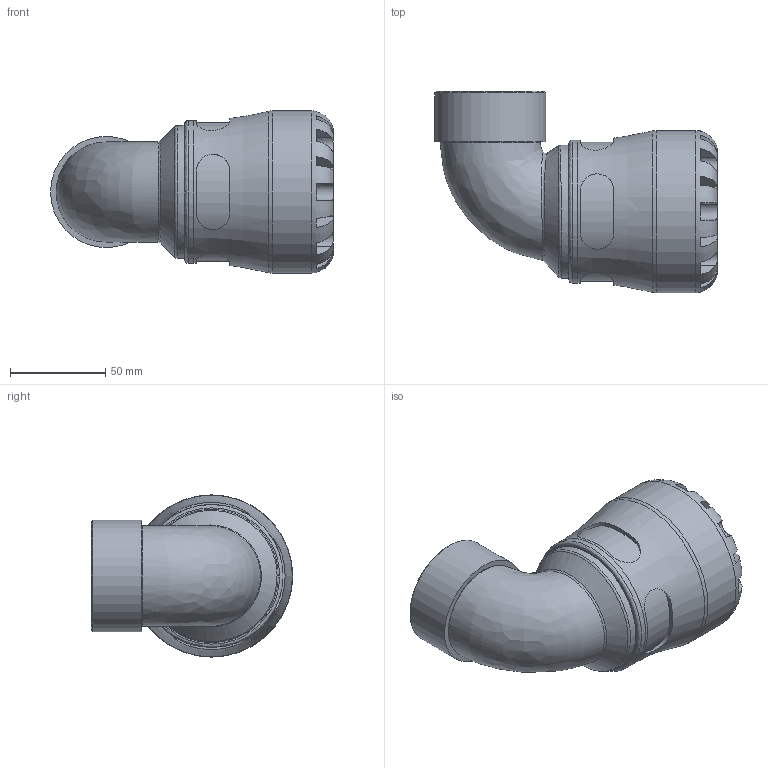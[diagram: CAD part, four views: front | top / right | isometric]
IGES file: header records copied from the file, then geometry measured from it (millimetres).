
Global section: file name: 101500050015_191500050015.ipt; native system: Autodesk Inventor 2015; preprocessor: unknown; author: KIM; date: 20170730.115227; units: millimetre
Bounding box: 148.15 x 105.5 x 85 mm (x, y, z)
Volume: 329109.3 mm3; surface area: 68041.7 mm2
Topology: 1 solids, 1 shells, 110 faces, 278 edges, 177 vertices
Faces by surface type: plane 62, revolution 26, cylinder 17, bspline 4, cone 1
Full cylindrical faces by diameter (mm): 52.469 x1, 58.298 x1, 69.7 x1, 74.8 x1, 85 x1
